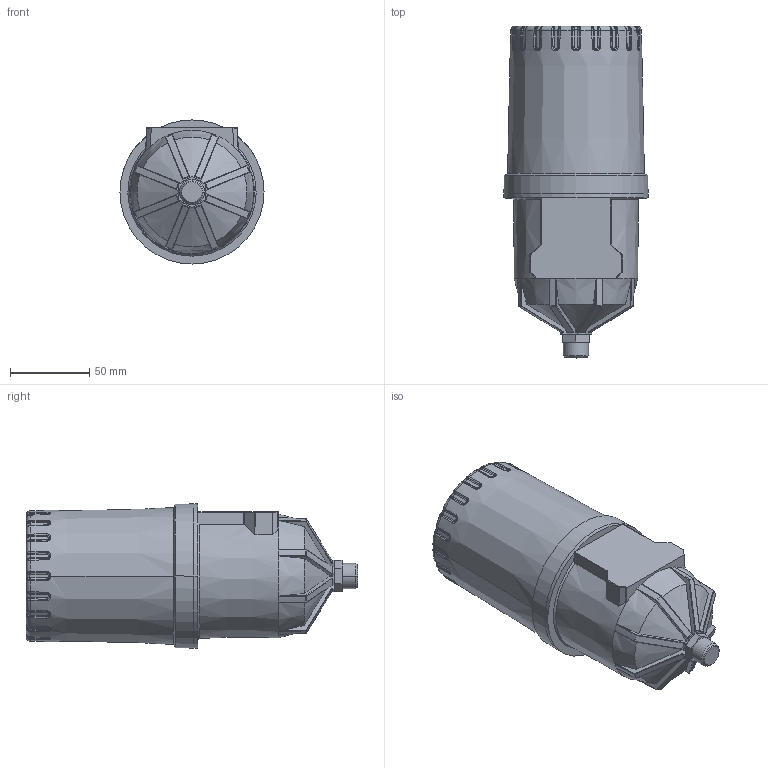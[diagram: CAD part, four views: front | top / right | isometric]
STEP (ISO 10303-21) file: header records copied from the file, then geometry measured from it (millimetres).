
FILE_DESCRIPTION((''),'2;1');
FILE_NAME('M2_250_SKIN_ASM','2023-02-14T10:44:21',('KLT'),(''),'CREO PARAMETRIC BY PTC INC, 2019352','CREO PARAMETRIC BY PTC INC, 2019352','');
FILE_SCHEMA(('CONFIG_CONTROL_DESIGN'));
Products named in the file (4): MAINBODY_M2; BUSH_M2; HOUSING250_M2; M2_250_SKIN_ASM
Assembly tree (3 placements, depth 2):
  M2_250_SKIN_ASM
    MAINBODY_M2
    BUSH_M2
    HOUSING250_M2
Bounding box: 91 x 209.5 x 91 mm (x, y, z)
Volume: 371024.4 mm3; surface area: 81154.4 mm2
Topology: 2 solids, 39 shells, 891 faces, 2244 edges, 1332 vertices
Faces by surface type: bspline 334, cylinder 252, torus 120, plane 99, cone 66, sphere 20
Entity records: 42465 total; most frequent: CARTESIAN_POINT 24093, ORIENTED_EDGE 4218, DIRECTION 3114, EDGE_CURVE 2224, VERTEX_POINT 1332, AXIS2_PLACEMENT_3D 1322, B_SPLINE_CURVE_WITH_KNOTS 998, EDGE_LOOP 941
